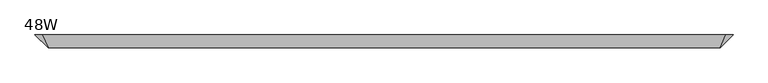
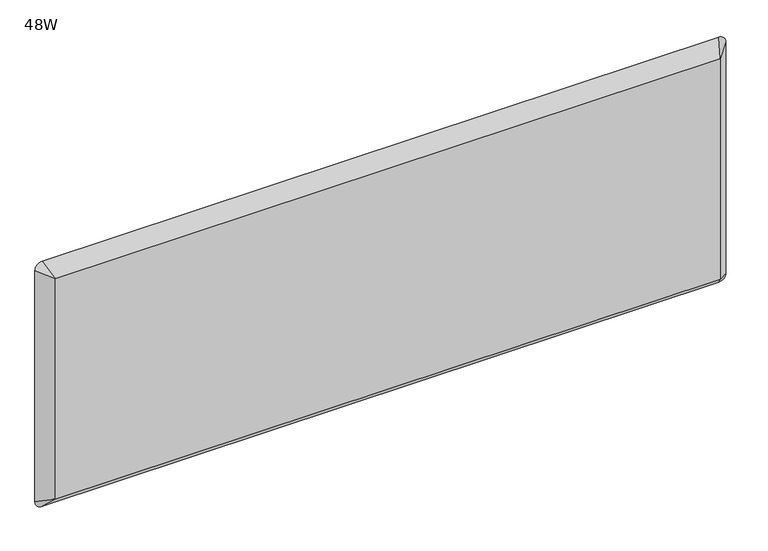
"""IFC4 building model written with IfcOpenShell, lengths in millimetres: furniture geometry, Steelcase - Answer Solution - Tackboards for Use with Wall Channels : 48W."""

from ifc_helpers import new_model, si_unit, frame, origin, place, context, project, spatial, circle_curve, source, transform, mapped, element, save
from ifc_brep_helpers import plane_surface, spline_surface, advanced_brep


def furniture_48w_070e4805(model_context):
    return source(origin(), model_context, "Body", "AdvancedBrep", [
        advanced_brep(
        [(1234.44, -58.549664, 1158.24), (60.96, -58.549664, 1158.24), (60.96, -58.549664, 746.76), (1234.44, -58.549664, 746.76), (1244.6, -36.19754, 1181.1), (1257.3, -36.19754, 1168.4), (1257.3, -36.19754, 736.6), (1244.6, -36.19754, 723.9), (50.8, -36.19754, 723.9), (38.1, -36.19754, 736.6), (38.1, -36.19754, 1168.4), (50.8, -36.19754, 1181.1)],
        [
            (0, 1),
            (1, 2),
            (2, 3),
            (3, 0),
            (4, 5, circle_curve(frame((1244.6, -36.19754, 1168.4), z_axis=(0.0, 1.0, 0.0), x_axis=(-1.0, 0.0, 0.0)), 12.7)),
            (5, 6),
            (6, 7, circle_curve(frame((1244.6, -36.19754, 736.6), z_axis=(0.0, 1.0, 0.0), x_axis=(-1.0, 0.0, 0.0)), 12.7)),
            (7, 8),
            (8, 9, circle_curve(frame((50.8, -36.19754, 736.6), z_axis=(0.0, 1.0, 0.0), x_axis=(-1.0, 0.0, 0.0)), 12.7)),
            (9, 10),
            (10, 11, circle_curve(frame((50.8, -36.19754, 1168.4), z_axis=(0.0, 1.0, 0.0), x_axis=(-1.0, 0.0, 0.0)), 12.7)),
            (11, 4),
            (4, 0),
            (0, 5),
            (3, 6),
            (3, 7),
            (2, 8),
            (2, 9),
            (1, 10),
            (1, 11),
        ],
        [
            plane_surface(frame((647.7, -58.549664, 952.5), z_axis=(0.0, -1.0, 0.0), x_axis=(1.0, 0.0, 0.0))),
            plane_surface(frame((647.7, -36.19754, 952.5), z_axis=(0.0, 1.0, 0.0), x_axis=(1.0, 0.0, 0.0))),
            spline_surface(2, 1, [[(1257.3, -36.19754, 1168.4), (1234.44, -58.549664, 1158.24)], [(1257.3000000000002, -36.19754, 1181.1000000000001), (1234.44, -58.549664, 1158.24)], [(1244.6, -36.19754, 1181.1), (1234.44, -58.549664, 1158.24)]], [3, 3], [2, 2], [0.0, 1.0], [0.0, 1.0], weights=[[1.0, 1.0], [0.7071067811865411, 0.7071067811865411], [1.0, 1.0]]),
            plane_surface(frame((1257.3, -36.19754, 952.5), z_axis=(0.6991196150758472, -0.7150047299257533, 0.0), x_axis=(0.0, 0.0, 1.0))),
            spline_surface(2, 1, [[(1244.6, -36.19754, 723.9), (1234.44, -58.549664, 746.76)], [(1257.3, -36.19754, 723.9), (1234.44, -58.549664, 746.76)], [(1257.3, -36.19754, 736.6), (1234.44, -58.549664, 746.76)]], [3, 3], [2, 2], [0.0, 1.0], [0.0, 1.0], weights=[[1.0, 1.0], [0.7071067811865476, 0.7071067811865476], [1.0, 1.0]]),
            plane_surface(frame((647.7, -36.19754, 723.9), z_axis=(0.0, -0.7150047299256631, -0.6991196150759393), x_axis=(1.0, 0.0, 0.0))),
            spline_surface(2, 1, [[(38.1, -36.19754, 736.6), (60.96, -58.549664, 746.76)], [(38.10000000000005, -36.19754, 723.9), (60.96, -58.549664, 746.76)], [(50.8, -36.19754, 723.9), (60.96, -58.549664, 746.76)]], [3, 3], [2, 2], [0.0, 1.0], [0.0, 1.0], weights=[[1.0, 1.0], [0.7071067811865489, 0.7071067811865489], [1.0, 1.0]]),
            plane_surface(frame((38.1, -36.19754, 952.5), z_axis=(-0.699119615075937, -0.7150047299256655, 0.0), x_axis=(0.0, 0.0, -1.0))),
            spline_surface(2, 1, [[(50.8, -36.19754, 1181.1), (60.96, -58.549664, 1158.24)], [(38.10000000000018, -36.19754, 1181.0999999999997), (60.96, -58.549664, 1158.24)], [(38.1, -36.19754, 1168.4), (60.96, -58.549664, 1158.24)]], [3, 3], [2, 2], [0.0, 1.0], [0.0, 1.0], weights=[[1.0, 1.0], [0.7071067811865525, 0.7071067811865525], [1.0, 1.0]]),
            plane_surface(frame((647.7, -36.19754, 1181.1), z_axis=(0.0, -0.7150047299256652, 0.6991196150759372), x_axis=(-1.0, 0.0, 0.0))),
        ],
        [
            (0, [[1, 2, 3, 4]]),
            (1, [[5, 6, 7, 8, 9, 10, 11, 12]]),
            (2, [[-5, 13, 14]]),
            (3, [[-6, -14, -4, 15]]),
            (4, [[-7, -15, 16]]),
            (5, [[-8, -16, -3, 17]]),
            (6, [[-9, -17, 18]]),
            (7, [[-10, -18, -2, 19]]),
            (8, [[-11, -19, 20]]),
            (9, [[-12, -20, -1, -13]]),
        ],
    ),
    ])


if __name__ == "__main__":
    model = new_model("IFC4")
    model_context = context("Model", 3, world=origin())
    ifc_project = project(units=[si_unit("LENGTHUNIT", "METRE", prefix="MILLI")], contexts=[model_context])
    site = spatial("IfcSite", under=ifc_project)
    building = spatial("IfcBuilding", under=site)
    placement = place(None, origin())
    furniture_48w_shape = furniture_48w_070e4805(model_context)
    element("IfcFurniture", 1, ObjectType="Steelcase - Answer Solution - Tackboards for Use with Wall Channels : 48W", at=placement, inside=building, context=model_context, shape_type="MappedRepresentation", body=[
        mapped(furniture_48w_shape, transform((0.0, 0.0, 0.0), x_axis=(1.0, 0.0, 0.0), y_axis=(0.0, 1.0, 0.0), z_axis=(0.0, 0.0, 1.0))),
    ])
    save(model, "model.ifc")
